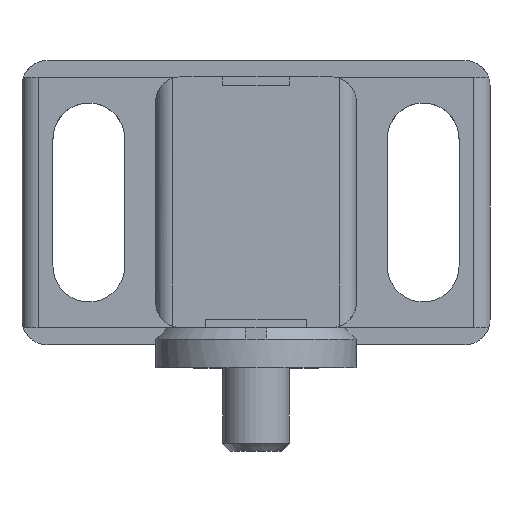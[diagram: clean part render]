
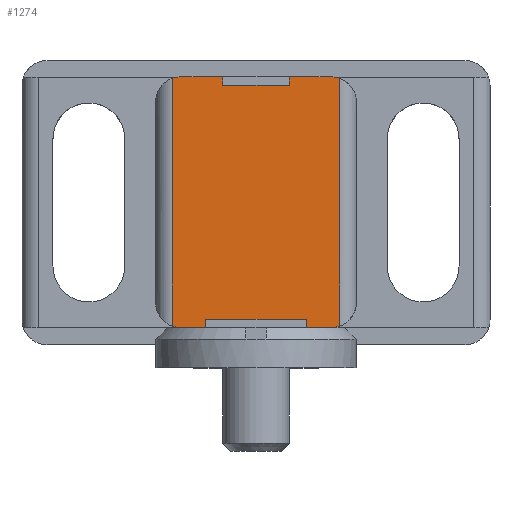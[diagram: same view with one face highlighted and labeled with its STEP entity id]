
A CAD part, top view. The second image highlights one B-rep face of the part: STEP entity #1274.
In plain terms, the highlighted planar face has unit normal (0, 0, 1).
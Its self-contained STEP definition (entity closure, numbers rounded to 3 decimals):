
#18 = CARTESIAN_POINT ( 'NONE',  ( 2.5, 16., 14. ) ) ;
#51 = DIRECTION ( 'NONE',  ( 0., 0., 1. ) ) ;
#78 = CARTESIAN_POINT ( 'NONE',  ( 3., 0.375, 14. ) ) ;
#79 = ORIENTED_EDGE ( 'NONE', *, *, #1229, .T. ) ;
#92 = VERTEX_POINT ( 'NONE', #255 ) ;
#99 = VERTEX_POINT ( 'NONE', #1668 ) ;
#112 = EDGE_CURVE ( 'NONE', #2345, #1270, #315, .T. ) ;
#117 = ORIENTED_EDGE ( 'NONE', *, *, #919, .T. ) ;
#135 = DIRECTION ( 'NONE',  ( 0., 0., 1. ) ) ;
#148 = DIRECTION ( 'NONE',  ( 1., 0., 0. ) ) ;
#180 = DIRECTION ( 'NONE',  ( 1., 0., 0. ) ) ;
#188 = VECTOR ( 'NONE', #2626, 1000. ) ;
#222 = DIRECTION ( 'NONE',  ( 0., 1., 0. ) ) ;
#230 = EDGE_CURVE ( 'NONE', #1496, #1033, #2183, .T. ) ;
#255 = CARTESIAN_POINT ( 'NONE',  ( -2., 15.5, 14. ) ) ;
#274 = ORIENTED_EDGE ( 'NONE', *, *, #1306, .T. ) ;
#298 = EDGE_CURVE ( 'NONE', #2051, #1496, #1115, .T. ) ;
#310 = LINE ( 'NONE', #1308, #1655 ) ;
#315 = CIRCLE ( 'NONE', #914, 1.5 ) ;
#328 = VECTOR ( 'NONE', #821, 1000. ) ;
#370 = CARTESIAN_POINT ( 'NONE',  ( -4.5, 2.5, 14. ) ) ;
#380 = CARTESIAN_POINT ( 'NONE',  ( 2.5, 1., 14. ) ) ;
#385 = LINE ( 'NONE', #2398, #2073 ) ;
#413 = EDGE_CURVE ( 'NONE', #2341, #92, #1585, .T. ) ;
#419 = CIRCLE ( 'NONE', #2244, 1.5 ) ;
#443 = VERTEX_POINT ( 'NONE', #1038 ) ;
#450 = LINE ( 'NONE', #1872, #1986 ) ;
#463 = DIRECTION ( 'NONE',  ( -1., 0., 0. ) ) ;
#500 = DIRECTION ( 'NONE',  ( 0., -1., 0. ) ) ;
#535 = CARTESIAN_POINT ( 'NONE',  ( 2., 15.5, 14. ) ) ;
#537 = CARTESIAN_POINT ( 'NONE',  ( -4.5, 1., 14. ) ) ;
#539 = LINE ( 'NONE', #1559, #2501 ) ;
#570 = ORIENTED_EDGE ( 'NONE', *, *, #2166, .T. ) ;
#585 = CARTESIAN_POINT ( 'NONE',  ( 5., 1.086, 14. ) ) ;
#595 = ORIENTED_EDGE ( 'NONE', *, *, #1606, .F. ) ;
#637 = LINE ( 'NONE', #18, #754 ) ;
#639 = ORIENTED_EDGE ( 'NONE', *, *, #298, .T. ) ;
#652 = CARTESIAN_POINT ( 'NONE',  ( 5., 15.914, 14. ) ) ;
#666 = DIRECTION ( 'NONE',  ( 0., -1., 0. ) ) ;
#689 = VERTEX_POINT ( 'NONE', #2167 ) ;
#696 = ORIENTED_EDGE ( 'NONE', *, *, #1333, .T. ) ;
#754 = VECTOR ( 'NONE', #1444, 1000. ) ;
#771 = EDGE_LOOP ( 'NONE', ( #79, #570, #595, #2304, #2242, #639, #1248, #696, #1150, #795, #1813, #1883, #1791, #274, #1594, #117 ) ) ;
#795 = ORIENTED_EDGE ( 'NONE', *, *, #112, .T. ) ;
#796 = DIRECTION ( 'NONE',  ( 1., 0., 0. ) ) ;
#801 = DIRECTION ( 'NONE',  ( 0., 0., 1. ) ) ;
#814 = LINE ( 'NONE', #1897, #1091 ) ;
#821 = DIRECTION ( 'NONE',  ( 0., 1., 0. ) ) ;
#829 = CARTESIAN_POINT ( 'NONE',  ( -5., 0., 14. ) ) ;
#832 = CARTESIAN_POINT ( 'NONE',  ( -5., 1.086, 14. ) ) ;
#846 = CARTESIAN_POINT ( 'NONE',  ( 2., 16., 14. ) ) ;
#848 = EDGE_CURVE ( 'NONE', #1209, #2345, #385, .T. ) ;
#914 = AXIS2_PLACEMENT_3D ( 'NONE', #1283, #1089, #666 ) ;
#917 = VERTEX_POINT ( 'NONE', #832 ) ;
#919 = EDGE_CURVE ( 'NONE', #92, #689, #310, .T. ) ;
#928 = VERTEX_POINT ( 'NONE', #2534 ) ;
#987 = DIRECTION ( 'NONE',  ( 1., 0., 0. ) ) ;
#995 = LINE ( 'NONE', #829, #328 ) ;
#1033 = VERTEX_POINT ( 'NONE', #1534 ) ;
#1038 = CARTESIAN_POINT ( 'NONE',  ( -4.5, 16., 14. ) ) ;
#1089 = DIRECTION ( 'NONE',  ( 0., 0., 1. ) ) ;
#1091 = VECTOR ( 'NONE', #2522, 1000. ) ;
#1115 = LINE ( 'NONE', #1933, #188 ) ;
#1148 = EDGE_CURVE ( 'NONE', #1270, #2207, #539, .T. ) ;
#1150 = ORIENTED_EDGE ( 'NONE', *, *, #848, .T. ) ;
#1169 = VERTEX_POINT ( 'NONE', #846 ) ;
#1209 = VERTEX_POINT ( 'NONE', #1645 ) ;
#1212 = CARTESIAN_POINT ( 'NONE',  ( -3., 1., 14. ) ) ;
#1229 = EDGE_CURVE ( 'NONE', #689, #443, #637, .T. ) ;
#1234 = DIRECTION ( 'NONE',  ( 0., 0., 1. ) ) ;
#1248 = ORIENTED_EDGE ( 'NONE', *, *, #230, .T. ) ;
#1270 = VERTEX_POINT ( 'NONE', #585 ) ;
#1274 = ADVANCED_FACE ( 'NONE', ( #1662 ), #1822, .T. ) ;
#1283 = CARTESIAN_POINT ( 'NONE',  ( 4.5, 2.5, 14. ) ) ;
#1291 = CARTESIAN_POINT ( 'NONE',  ( -4.5, 14.5, 14. ) ) ;
#1306 = EDGE_CURVE ( 'NONE', #1169, #2341, #814, .T. ) ;
#1308 = CARTESIAN_POINT ( 'NONE',  ( -2., 8.125, 14. ) ) ;
#1333 = EDGE_CURVE ( 'NONE', #1033, #1209, #1495, .T. ) ;
#1380 = CARTESIAN_POINT ( 'NONE',  ( 2.5, 15.5, 14. ) ) ;
#1392 = CIRCLE ( 'NONE', #1430, 1.5 ) ;
#1411 = EDGE_CURVE ( 'NONE', #99, #1169, #450, .T. ) ;
#1430 = AXIS2_PLACEMENT_3D ( 'NONE', #1291, #51, #1667 ) ;
#1444 = DIRECTION ( 'NONE',  ( -1., 0., 0. ) ) ;
#1495 = LINE ( 'NONE', #78, #2416 ) ;
#1496 = VERTEX_POINT ( 'NONE', #2176 ) ;
#1518 = CIRCLE ( 'NONE', #2157, 1.5 ) ;
#1534 = CARTESIAN_POINT ( 'NONE',  ( 3., 1.5, 14. ) ) ;
#1559 = CARTESIAN_POINT ( 'NONE',  ( 5., 0., 14. ) ) ;
#1585 = LINE ( 'NONE', #1380, #1740 ) ;
#1594 = ORIENTED_EDGE ( 'NONE', *, *, #413, .T. ) ;
#1606 = EDGE_CURVE ( 'NONE', #917, #928, #995, .T. ) ;
#1645 = CARTESIAN_POINT ( 'NONE',  ( 3., 1., 14. ) ) ;
#1651 = VECTOR ( 'NONE', #180, 1000. ) ;
#1655 = VECTOR ( 'NONE', #222, 1000. ) ;
#1662 = FACE_OUTER_BOUND ( 'NONE', #771, .T. ) ;
#1667 = DIRECTION ( 'NONE',  ( 0., 1., 0. ) ) ;
#1668 = CARTESIAN_POINT ( 'NONE',  ( 4.5, 16., 14. ) ) ;
#1687 = EDGE_CURVE ( 'NONE', #1887, #2051, #2205, .T. ) ;
#1740 = VECTOR ( 'NONE', #2197, 1000. ) ;
#1791 = ORIENTED_EDGE ( 'NONE', *, *, #1411, .T. ) ;
#1813 = ORIENTED_EDGE ( 'NONE', *, *, #1148, .T. ) ;
#1822 = PLANE ( 'NONE',  #2243 ) ;
#1872 = CARTESIAN_POINT ( 'NONE',  ( 2.5, 16., 14. ) ) ;
#1883 = ORIENTED_EDGE ( 'NONE', *, *, #2354, .T. ) ;
#1887 = VERTEX_POINT ( 'NONE', #537 ) ;
#1897 = CARTESIAN_POINT ( 'NONE',  ( 2., 8.125, 14. ) ) ;
#1933 = CARTESIAN_POINT ( 'NONE',  ( -3., 0.375, 14. ) ) ;
#1986 = VECTOR ( 'NONE', #463, 1000. ) ;
#2017 = VECTOR ( 'NONE', #148, 1000. ) ;
#2046 = CARTESIAN_POINT ( 'NONE',  ( 5., 0., 14. ) ) ;
#2051 = VERTEX_POINT ( 'NONE', #1212 ) ;
#2073 = VECTOR ( 'NONE', #987, 1000. ) ;
#2152 = CARTESIAN_POINT ( 'NONE',  ( 4.5, 1., 14. ) ) ;
#2157 = AXIS2_PLACEMENT_3D ( 'NONE', #2517, #135, #2570 ) ;
#2166 = EDGE_CURVE ( 'NONE', #443, #928, #1392, .T. ) ;
#2167 = CARTESIAN_POINT ( 'NONE',  ( -2., 16., 14. ) ) ;
#2176 = CARTESIAN_POINT ( 'NONE',  ( -3., 1.5, 14. ) ) ;
#2183 = LINE ( 'NONE', #2584, #2017 ) ;
#2197 = DIRECTION ( 'NONE',  ( -1., 0., 0. ) ) ;
#2205 = LINE ( 'NONE', #380, #1651 ) ;
#2207 = VERTEX_POINT ( 'NONE', #652 ) ;
#2242 = ORIENTED_EDGE ( 'NONE', *, *, #1687, .T. ) ;
#2243 = AXIS2_PLACEMENT_3D ( 'NONE', #2046, #1234, #796 ) ;
#2244 = AXIS2_PLACEMENT_3D ( 'NONE', #370, #801, #2625 ) ;
#2304 = ORIENTED_EDGE ( 'NONE', *, *, #2475, .T. ) ;
#2341 = VERTEX_POINT ( 'NONE', #535 ) ;
#2345 = VERTEX_POINT ( 'NONE', #2152 ) ;
#2354 = EDGE_CURVE ( 'NONE', #2207, #99, #1518, .T. ) ;
#2377 = DIRECTION ( 'NONE',  ( 0., 1., 0. ) ) ;
#2398 = CARTESIAN_POINT ( 'NONE',  ( 2.5, 1., 14. ) ) ;
#2416 = VECTOR ( 'NONE', #500, 1000. ) ;
#2475 = EDGE_CURVE ( 'NONE', #917, #1887, #419, .T. ) ;
#2501 = VECTOR ( 'NONE', #2377, 1000. ) ;
#2517 = CARTESIAN_POINT ( 'NONE',  ( 4.5, 14.5, 14. ) ) ;
#2522 = DIRECTION ( 'NONE',  ( 0., -1., 0. ) ) ;
#2534 = CARTESIAN_POINT ( 'NONE',  ( -5., 15.914, 14. ) ) ;
#2570 = DIRECTION ( 'NONE',  ( 1., 0., 0. ) ) ;
#2584 = CARTESIAN_POINT ( 'NONE',  ( 2.5, 1.5, 14. ) ) ;
#2625 = DIRECTION ( 'NONE',  ( -1., 0., 0. ) ) ;
#2626 = DIRECTION ( 'NONE',  ( 0., 1., 0. ) ) ;
